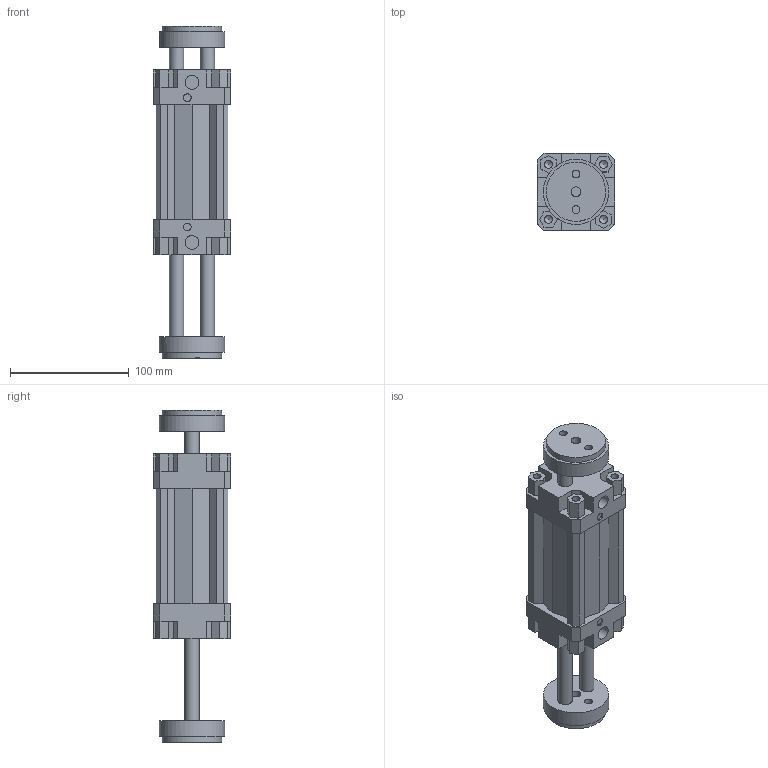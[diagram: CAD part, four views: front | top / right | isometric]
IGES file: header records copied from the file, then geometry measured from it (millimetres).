
Global section: file name: 132#_050_0050_06; native system: Autodesk Inventor 2014; preprocessor: unknown; author: A. Manieri; date: 20161006.155657; units: millimetre
Bounding box: 65 x 65 x 280 mm (x, y, z)
Volume: 514462.4 mm3; surface area: 125290 mm2
Topology: 2 solids, 2 shells, 190 faces, 518 edges, 354 vertices
Faces by surface type: bspline 190
